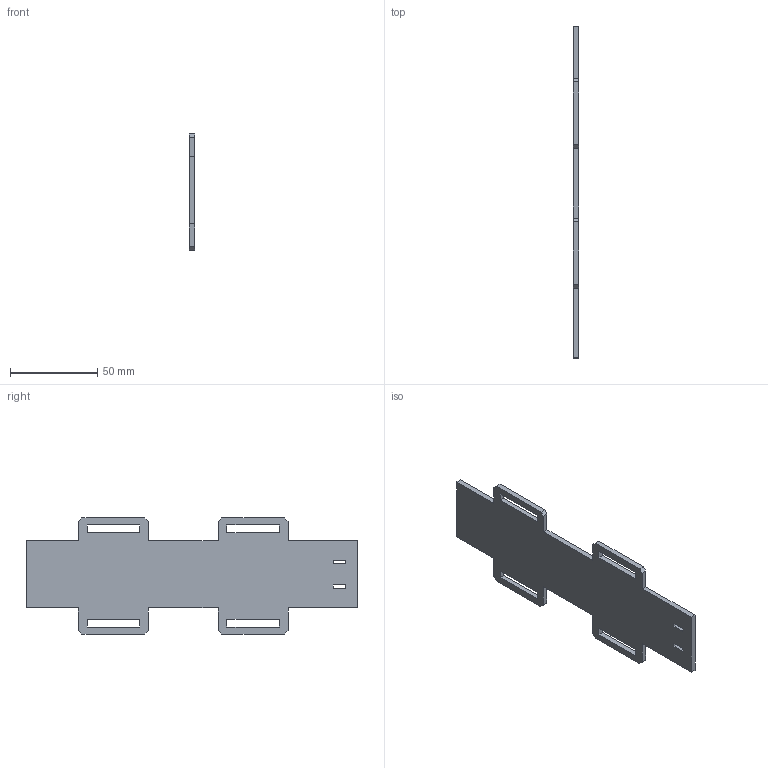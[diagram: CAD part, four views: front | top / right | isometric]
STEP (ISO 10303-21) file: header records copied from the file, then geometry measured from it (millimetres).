
FILE_DESCRIPTION(/* description */ ('STEP AP242 Edition 2','CAx-IF Rec.Pracs.---Representation and Presentation of Product Manufacturing Information (PMI)---4.0---2014-10-13','CAx-IF Rec.Pracs.---3D Tessellated Geometry---0.4---2014-09-14','2;1','CAx-IF Rec.Pracs.---User Defined Attributes---1.5---2016-08-15'),/* implementation_level */ '2;1');
FILE_NAME(/* name */ 'Enclosure - Middle 1',/* time_stamp */ '2026-11-16T09:17:36Z',/* author */ (''),/* organization */ (''),/* preprocessor_version */ 'ST-DEVELOPER v20',/* originating_system */ 'ONSHAPE BY PTC INC, 1.223',/* authorisation */ ' ');
FILE_SCHEMA (('AP242_MANAGED_MODEL_BASED_3D_ENGINEERING_MIM_LF { 1 0 10303 442 3 1 4 }'));
Length unit declared in the file: metre
Products named in the file (1): Middle 1
Bounding box: 3 x 190 x 66.5 mm (x, y, z)
Volume: 26904.9 mm3; surface area: 20560.7 mm2
Topology: 1 solids, 1 shells, 56 faces, 162 edges, 108 vertices
Faces by surface type: plane 56
Entity records: 1852 total; most frequent: CARTESIAN_POINT 327, ORIENTED_EDGE 324, DIRECTION 276, EDGE_CURVE 162, LINE 162, VECTOR 162, VERTEX_POINT 108, EDGE_LOOP 68
